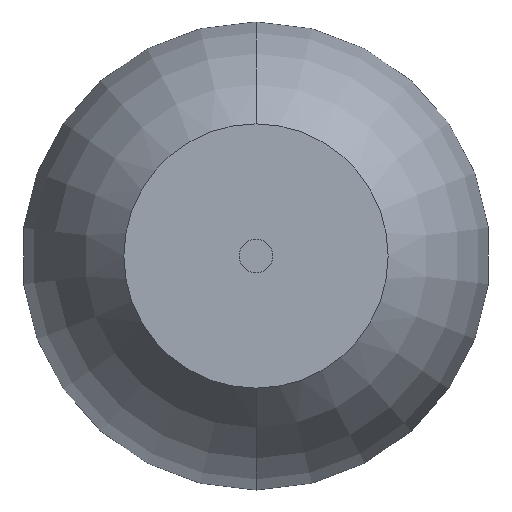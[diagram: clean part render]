
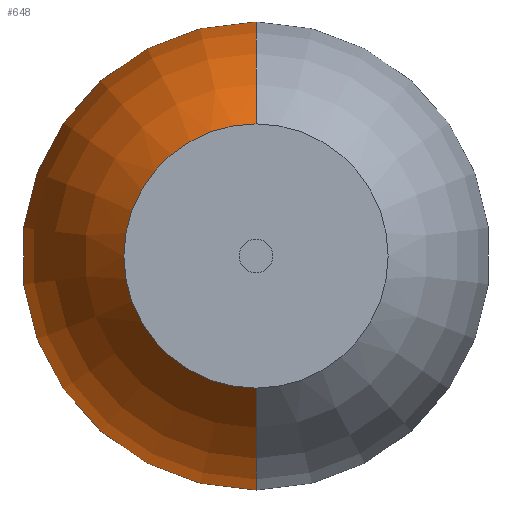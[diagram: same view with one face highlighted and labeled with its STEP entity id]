
A CAD part, left-side view. The second image highlights one B-rep face of the part: STEP entity #648.
In plain terms, the highlighted toroidal (fillet/blend) face has major radius 3.534 mm and minor radius 10.534 mm.
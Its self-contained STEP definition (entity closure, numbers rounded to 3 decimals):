
#8 = DIRECTION ( 'NONE',  ( -1., 0., 0. ) ) ;
#53 = CARTESIAN_POINT ( 'NONE',  ( 0., 0., -3.534 ) ) ;
#61 = EDGE_CURVE ( 'NONE', #715, #174, #869, .T. ) ;
#64 = DIRECTION ( 'NONE',  ( 0., 0., 1. ) ) ;
#82 = CARTESIAN_POINT ( 'NONE',  ( 7.432, 0., 0. ) ) ;
#147 = DIRECTION ( 'NONE',  ( 0., -1., 0. ) ) ;
#157 = ORIENTED_EDGE ( 'NONE', *, *, #462, .T. ) ;
#174 = VERTEX_POINT ( 'NONE', #570 ) ;
#185 = CARTESIAN_POINT ( 'NONE',  ( 7.432, 0., 3.931 ) ) ;
#262 = DIRECTION ( 'NONE',  ( -1., 0., 0. ) ) ;
#265 = ORIENTED_EDGE ( 'NONE', *, *, #639, .F. ) ;
#302 = VERTEX_POINT ( 'NONE', #397 ) ;
#327 = ORIENTED_EDGE ( 'NONE', *, *, #417, .F. ) ;
#342 = AXIS2_PLACEMENT_3D ( 'NONE', #833, #580, #667 ) ;
#383 = AXIS2_PLACEMENT_3D ( 'NONE', #53, #147, #485 ) ;
#397 = CARTESIAN_POINT ( 'NONE',  ( -7.432, 0., -3.931 ) ) ;
#417 = EDGE_CURVE ( 'NONE', #513, #302, #829, .T. ) ;
#430 = CARTESIAN_POINT ( 'NONE',  ( 0., 0., 0. ) ) ;
#454 = AXIS2_PLACEMENT_3D ( 'NONE', #430, #8, #765 ) ;
#459 = CARTESIAN_POINT ( 'NONE',  ( -7.432, 0., 3.931 ) ) ;
#462 = EDGE_CURVE ( 'NONE', #174, #302, #873, .T. ) ;
#485 = DIRECTION ( 'NONE',  ( 0., 0., -1. ) ) ;
#504 = DIRECTION ( 'NONE',  ( 0., 1., 0. ) ) ;
#508 = EDGE_LOOP ( 'NONE', ( #837, #157, #327, #265 ) ) ;
#513 = VERTEX_POINT ( 'NONE', #459 ) ;
#570 = CARTESIAN_POINT ( 'NONE',  ( 7.432, 0., -3.931 ) ) ;
#580 = DIRECTION ( 'NONE',  ( -1., 0., 0. ) ) ;
#639 = EDGE_CURVE ( 'NONE', #715, #513, #714, .T. ) ;
#648 = ADVANCED_FACE ( 'NONE', ( #722 ), #933, .T. ) ;
#667 = DIRECTION ( 'NONE',  ( 0., 0., 1. ) ) ;
#714 = CIRCLE ( 'NONE', #383, 10.534 ) ;
#715 = VERTEX_POINT ( 'NONE', #185 ) ;
#722 = FACE_OUTER_BOUND ( 'NONE', #508, .T. ) ;
#765 = DIRECTION ( 'NONE',  ( 0., 0., 1. ) ) ;
#829 = CIRCLE ( 'NONE', #342, 3.931 ) ;
#833 = CARTESIAN_POINT ( 'NONE',  ( -7.432, 0., 0. ) ) ;
#837 = ORIENTED_EDGE ( 'NONE', *, *, #61, .T. ) ;
#869 = CIRCLE ( 'NONE', #1011, 3.931 ) ;
#873 = CIRCLE ( 'NONE', #948, 10.534 ) ;
#907 = CARTESIAN_POINT ( 'NONE',  ( 0., 0., 3.534 ) ) ;
#933 = TOROIDAL_SURFACE ( 'NONE', #454, -3.534, 10.534 ) ;
#948 = AXIS2_PLACEMENT_3D ( 'NONE', #907, #504, #990 ) ;
#990 = DIRECTION ( 'NONE',  ( 0., 0., 1. ) ) ;
#1011 = AXIS2_PLACEMENT_3D ( 'NONE', #82, #262, #64 ) ;
